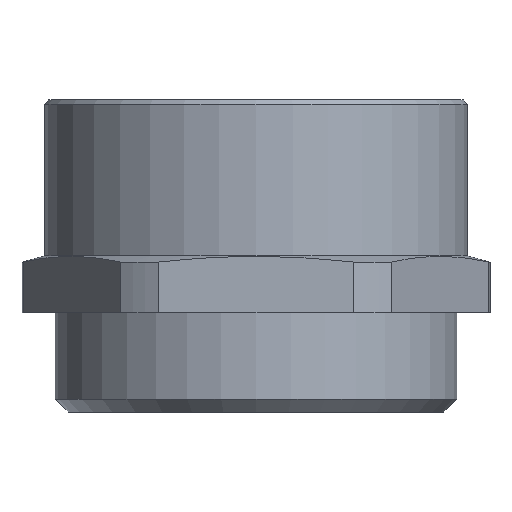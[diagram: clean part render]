
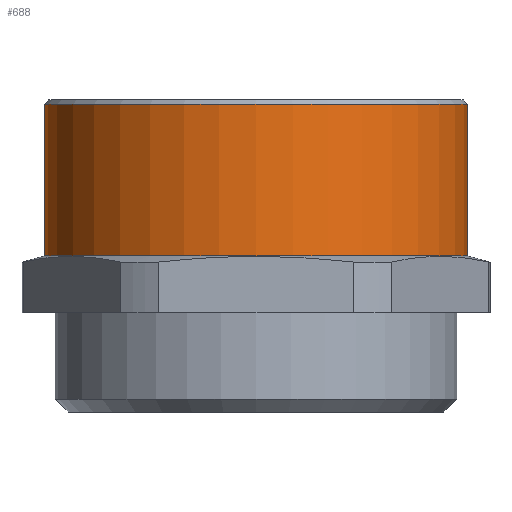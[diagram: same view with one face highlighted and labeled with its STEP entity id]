
A CAD part, left-side view. The second image highlights one B-rep face of the part: STEP entity #688.
In plain terms, the highlighted cylindrical face has radius 14.9 mm (diameter 29.8 mm), a partial arc.
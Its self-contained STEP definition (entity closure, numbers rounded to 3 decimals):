
#182 = VECTOR ( 'NONE', #2199, 1000. ) ;
#183 = CARTESIAN_POINT ( 'NONE',  ( 0., 14.9, 0. ) ) ;
#184 = LINE ( 'NONE', #183, #182 ) ;
#246 = CARTESIAN_POINT ( 'NONE',  ( 0., 14.9, -11. ) ) ;
#286 = DIRECTION ( 'NONE',  ( 0., 0., 1. ) ) ;
#287 = VECTOR ( 'NONE', #286, 1000. ) ;
#288 = CARTESIAN_POINT ( 'NONE',  ( 0., -14.9, 0. ) ) ;
#289 = LINE ( 'NONE', #288, #287 ) ;
#299 = CARTESIAN_POINT ( 'NONE',  ( 0., -14.9, -11. ) ) ;
#515 = VERTEX_POINT ( 'NONE', #830 ) ;
#527 = VERTEX_POINT ( 'NONE', #741 ) ;
#666 = ORIENTED_EDGE ( 'NONE', *, *, #2146, .F. ) ;
#667 = ORIENTED_EDGE ( 'NONE', *, *, #1979, .T. ) ;
#684 = ORIENTED_EDGE ( 'NONE', *, *, #2165, .T. ) ;
#685 = ORIENTED_EDGE ( 'NONE', *, *, #686, .T. ) ;
#686 = EDGE_CURVE ( 'NONE', #527, #515, #1076, .T. ) ;
#688 = ADVANCED_FACE ( 'NONE', ( #1077 ), #1081, .T. ) ;
#689 = EDGE_LOOP ( 'NONE', ( #666, #667, #684, #685 ) ) ;
#741 = CARTESIAN_POINT ( 'NONE',  ( 0., -14.9, -0.3 ) ) ;
#830 = CARTESIAN_POINT ( 'NONE',  ( 0., 14.9, -0.3 ) ) ;
#1076 = CIRCLE ( 'NONE', #1097, 14.9 ) ;
#1077 = FACE_OUTER_BOUND ( 'NONE', #689, .T. ) ;
#1078 = DIRECTION ( 'NONE',  ( 0., -1., 0. ) ) ;
#1079 = DIRECTION ( 'NONE',  ( 0., 0., 1. ) ) ;
#1080 = AXIS2_PLACEMENT_3D ( 'NONE', #1093, #1079, #1078 ) ;
#1081 = CYLINDRICAL_SURFACE ( 'NONE', #1080, 14.9 ) ;
#1093 = CARTESIAN_POINT ( 'NONE',  ( 0., 0., 0. ) ) ;
#1094 = DIRECTION ( 'NONE',  ( 0., 1., 0. ) ) ;
#1095 = DIRECTION ( 'NONE',  ( 0., 0., -1. ) ) ;
#1096 = CARTESIAN_POINT ( 'NONE',  ( 0., 0., -0.3 ) ) ;
#1097 = AXIS2_PLACEMENT_3D ( 'NONE', #1096, #1095, #1094 ) ;
#1979 = EDGE_CURVE ( 'NONE', #2140, #2173, #2261, .T. ) ;
#2140 = VERTEX_POINT ( 'NONE', #246 ) ;
#2146 = EDGE_CURVE ( 'NONE', #2140, #515, #184, .T. ) ;
#2165 = EDGE_CURVE ( 'NONE', #2173, #527, #289, .T. ) ;
#2173 = VERTEX_POINT ( 'NONE', #299 ) ;
#2199 = DIRECTION ( 'NONE',  ( 0., 0., 1. ) ) ;
#2230 = DIRECTION ( 'NONE',  ( 0., -1., 0. ) ) ;
#2231 = DIRECTION ( 'NONE',  ( 0., 0., 1. ) ) ;
#2232 = AXIS2_PLACEMENT_3D ( 'NONE', #2257, #2231, #2230 ) ;
#2257 = CARTESIAN_POINT ( 'NONE',  ( 0., 0., -11. ) ) ;
#2261 = CIRCLE ( 'NONE', #2232, 14.9 ) ;
